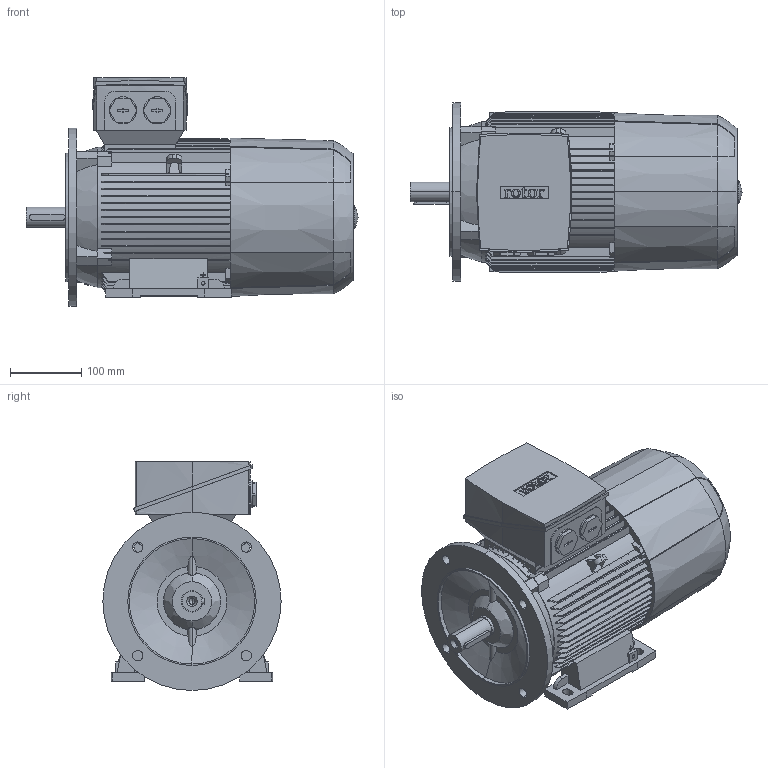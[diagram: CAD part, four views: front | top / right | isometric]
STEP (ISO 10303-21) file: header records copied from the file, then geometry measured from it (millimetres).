
FILE_DESCRIPTION (( 'STEP AP214' ), '1' );
FILE_NAME ('6RN112M04E42 IM2041.STEP', '2017-01-12T15:15:24', ( 'rbc_ict' ), ( 'Microsoft' ), 'SwSTEP 2.0', 'SolidWorks 2015', '' );
FILE_SCHEMA (( 'AUTOMOTIVE_DESIGN' ));
Length unit declared in the file: millimetre
Products named in the file (1): 6RN112M04E42 IM2041
Bounding box: 465.5 x 250 x 321 mm (x, y, z)
Volume: 15572309.7 mm3; surface area: 690674.4 mm2
Topology: 1 solids, 1 shells, 859 faces, 2440 edges, 1613 vertices
Faces by surface type: plane 505, bspline 171, cylinder 164, cone 19
Entity records: 41661 total; most frequent: CARTESIAN_POINT 12210, ORIENTED_EDGE 4872, DIRECTION 3642, EDGE_CURVE 2436, VERTEX_POINT 1613, LINE 1456, VECTOR 1456, AXIS2_PLACEMENT_3D 1093
